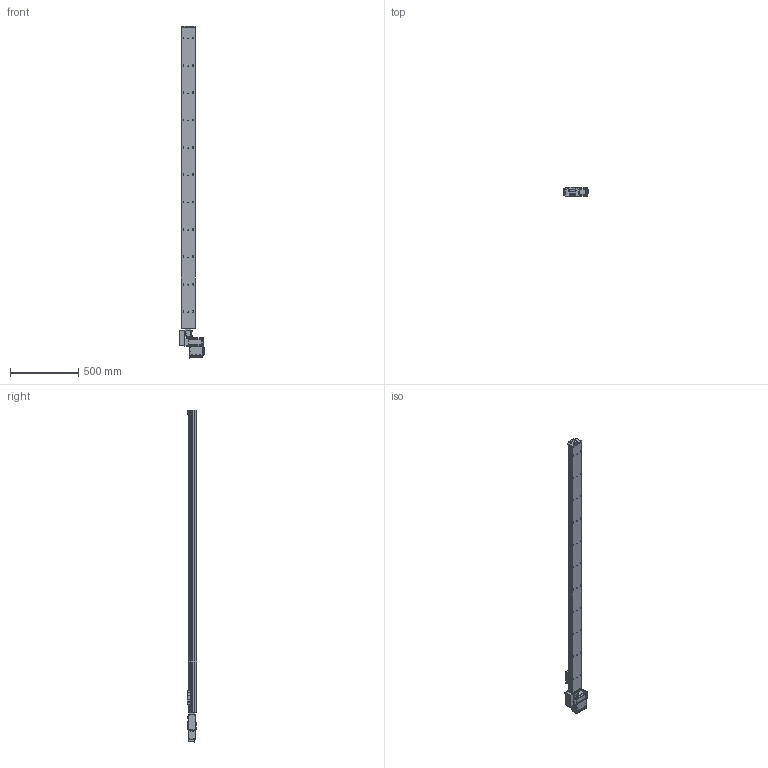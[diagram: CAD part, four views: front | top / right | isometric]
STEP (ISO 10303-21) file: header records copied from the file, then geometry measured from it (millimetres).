
FILE_DESCRIPTION (( 'STEP AP203' ), '1' );
FILE_NAME ('S10 TBN RH S2200.STEP', '2012-06-18T09:32:20', ( 'Conseil Régional Haute-Normandie' ), ( 'Conseil Régional Haute-Normandie' ), 'SwSTEP 2.0', 'SolidWorks 2010', '' );
FILE_SCHEMA (( 'CONFIG_CONTROL_DESIGN' ));
Products named in the file (30): S10 TBN RH S2200; palette tbn; plaque de bout s10_Default; Vis M5 L16-2_Default_1; vis M5 L5_Default; BU45 Carte d''axe A11_5; Couvercle_3; Moteur 60BLDC90A_3; Radiateur profil_X2_00E9_X0_ 100x25_3; Colonnette ronde_3; axe 2200; embout; cache t皻e axe_Default; cache t皻e_Default; Plaque racord_Default; renvoi LH_Default; Cvis M5 L30_Default; vis M5 L12_Default; Assem1_7; T_X2_00F4_X0_le contre le moteur_5; BU41 Carte Alimentation P05_3; Colonnette_3; T_X2_00F4_X0_le fond_3; Connecteur rond D10 3cts_5; Connecteur rond D12 4cts_5; Sub D 9cts 90_X2_00B_X0__3; T_X2_00F4_X0_le Arri_X2_00E8_X0_re_5; T_X2_00F4_X0_le lat_X2_00E9_X0_rale_5; Vis TF 3 torkx_1_1; Vis TF 3 torkx
Assembly tree (69 placements, depth 3):
  S10 TBN RH S2200
    vis M5 L5_Default  x4
    cache t皻e axe_Default
    renvoi LH_Default
    Plaque racord_Default
    cache t皻e_Default  x2
    palette tbn
    Cvis M5 L30_Default  x2
    Vis TF 3 torkx  x7
    axe 2200
    vis M5 L12_Default  x4
    Vis M5 L16-2_Default_1  x4
    Assem1_7
      T_X2_00F4_X0_le contre le moteur_5
      BU45 Carte d''axe A11_5
      Connecteur rond D12 4cts_5
      Radiateur profil_X2_00E9_X0_ 100x25_3
      Vis TF 3 torkx_1_1  x21
      BU41 Carte Alimentation P05_3
      T_X2_00F4_X0_le fond_3
      T_X2_00F4_X0_le lat_X2_00E9_X0_rale_5  x2
      Colonnette_3  x2
      Moteur 60BLDC90A_3
      Couvercle_3
      T_X2_00F4_X0_le Arri_X2_00E8_X0_re_5
      Connecteur rond D10 3cts_5  x2
      Sub D 9cts 90_X2_00B_X0__3
      Colonnette ronde_3
    embout
    plaque de bout s10_Default
Bounding box: 189.8 x 66.75 x 2428.5 mm (x, y, z)
Volume: 12245823.1 mm3; surface area: 1347620.2 mm2
Topology: 68 solids, 68 shells, 2569 faces, 6367 edges, 4111 vertices
Faces by surface type: plane 1225, cylinder 1105, cone 196, bspline 40, torus 3
Entity records: 50803 total; most frequent: CARTESIAN_POINT 9084, DIRECTION 8234, ORIENTED_EDGE 7438, EDGE_CURVE 3719, AXIS2_PLACEMENT_3D 3072, VERTEX_POINT 2427, LINE 2090, VECTOR 2090
